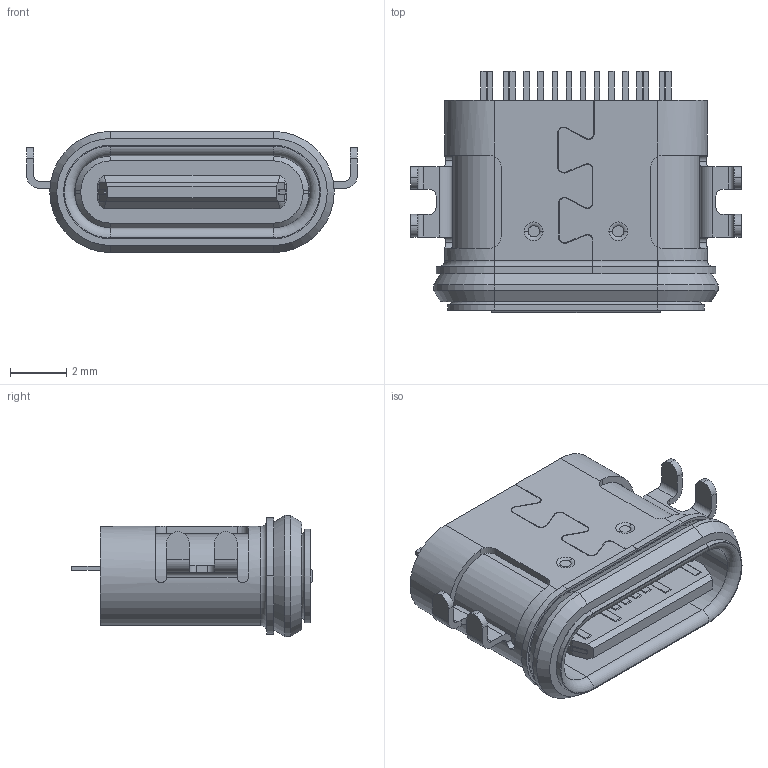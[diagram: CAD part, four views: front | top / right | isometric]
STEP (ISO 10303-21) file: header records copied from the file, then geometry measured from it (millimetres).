
FILE_DESCRIPTION (( 'STEP AP203' ), '1' );
FILE_NAME ('GT-USB-7072A.stp', '2023-05-13T08:14:56', ( '' ), ( '' ), 'SwSTEP 2.0', 'SolidWorks 2023', '' );
FILE_SCHEMA (( 'CONFIG_CONTROL_DESIGN' ));
Length unit declared in the file: millimetre
Products named in the file (3): PRT0168_2_9^GT-USB-7072A(2)_GT-USB-7072A; GT-USB-7072A; GT-USB-7072A(2)^GT-USB-7072A
Assembly tree (2 placements, depth 3):
  GT-USB-7072A
    GT-USB-7072A(2)^GT-USB-7072A
      PRT0168_2_9^GT-USB-7072A(2)_GT-USB-7072A
Bounding box: 11.74 x 8.56 x 4.3 mm (x, y, z)
Volume: 161.6 mm3; surface area: 656.6 mm2
Topology: 1 solids, 5 shells, 751 faces, 2058 edges, 1356 vertices
Faces by surface type: plane 534, cylinder 111, bspline 74, torus 16, cone 16
Entity records: 27672 total; most frequent: CARTESIAN_POINT 8717, ORIENTED_EDGE 4116, DIRECTION 3454, EDGE_CURVE 2058, VECTOR 1574, LINE 1574, VERTEX_POINT 1356, AXIS2_PLACEMENT_3D 940
